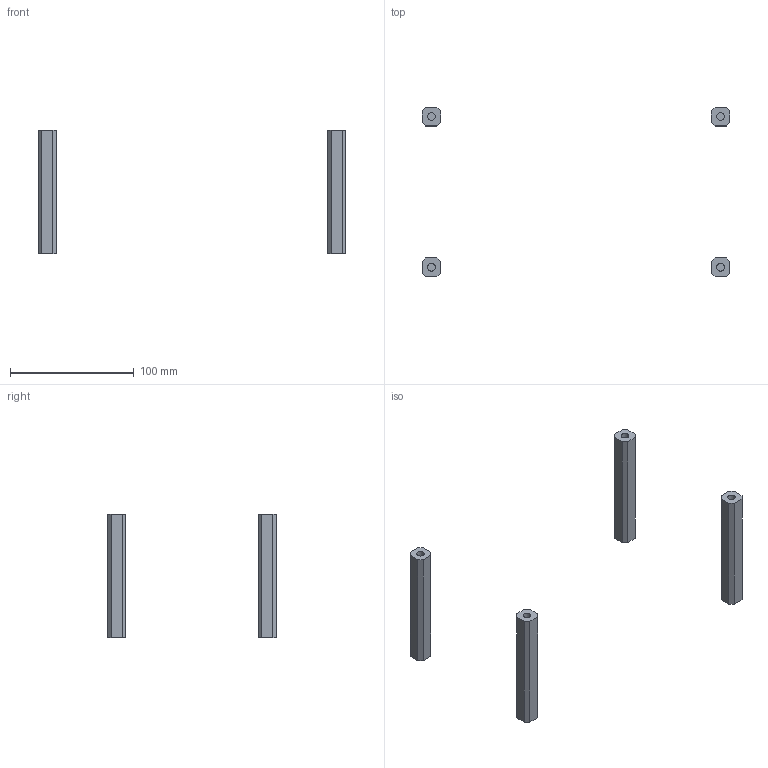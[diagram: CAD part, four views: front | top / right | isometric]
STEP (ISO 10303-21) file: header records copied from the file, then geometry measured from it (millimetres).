
FILE_DESCRIPTION(/* description */ (''),/* implementation_level */ '2;1');
FILE_NAME(/* name */ 'pillars.step',/* time_stamp */ '2026-06-03T23:55:48+01:00',/* author */ (''),/* organization */ (''),/* preprocessor_version */ 'ST-DEVELOPER v20.1',/* originating_system */ 'Autodesk Translation Framework v15.8.0.0',/* authorisation */ '');
FILE_SCHEMA (('AUTOMOTIVE_DESIGN { 1 0 10303 214 3 1 1 }'));
Length unit declared in the file: millimetre
Products named in the file (5): pillars; Component2; Component3; Component4; Component5
Assembly tree (4 placements, depth 2):
  pillars
    Component2
    Component3
    Component4
    Component5
Bounding box: 249 x 137 x 100 mm (x, y, z)
Volume: 77969.5 mm3; surface area: 25960.7 mm2
Topology: 4 solids, 4 shells, 56 faces, 120 edges, 80 vertices
Faces by surface type: plane 48, cylinder 8
Full cylindrical faces by diameter (mm): 6.2 x8
Entity records: 1649 total; most frequent: DIRECTION 266, CARTESIAN_POINT 265, ORIENTED_EDGE 240, EDGE_CURVE 120, LINE 104, VECTOR 104, AXIS2_PLACEMENT_3D 81, VERTEX_POINT 80
